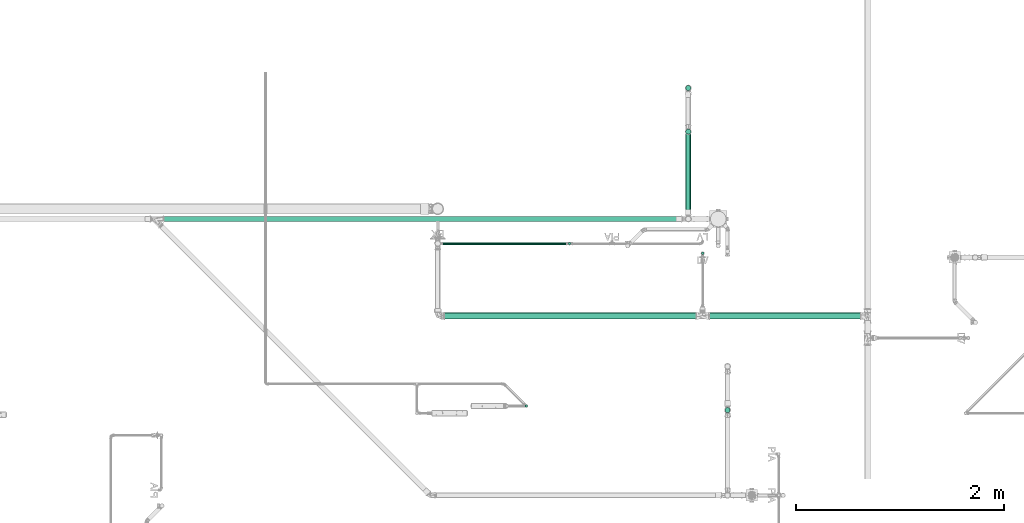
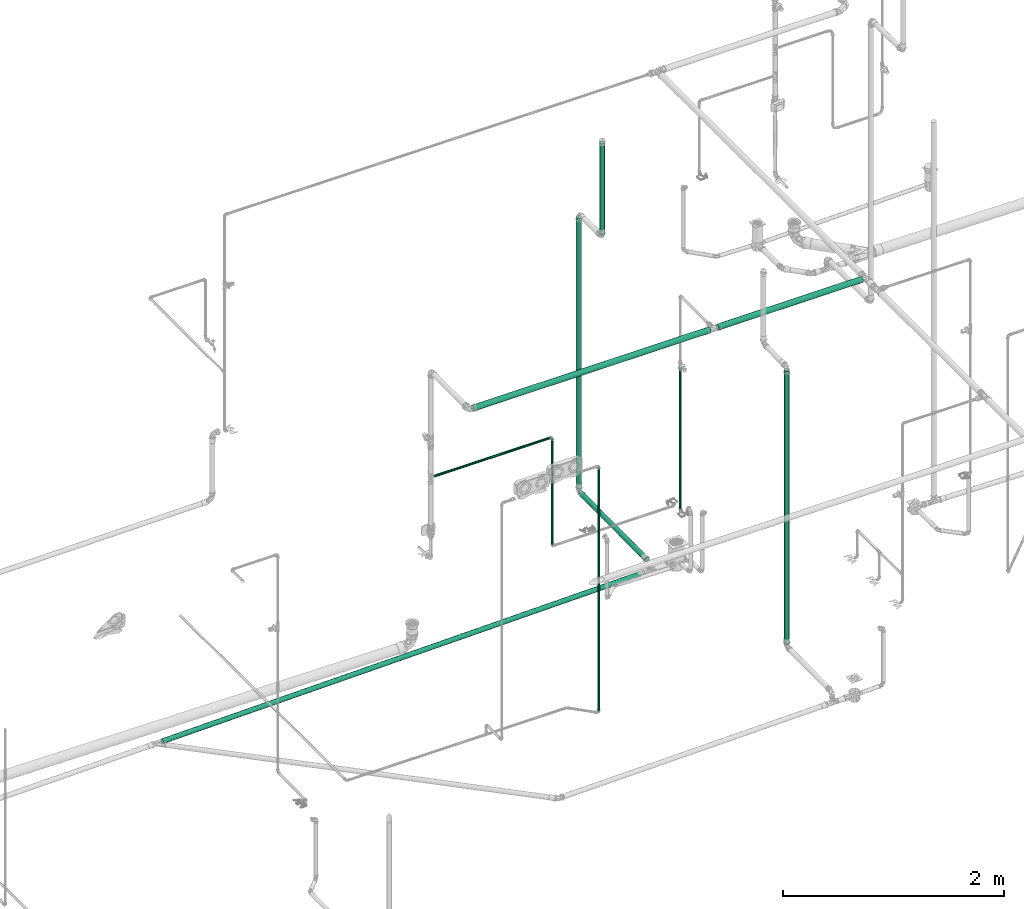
# One storey, part 20 of 589: 11 flow segments.
"""IFC2X3 building model written with IfcOpenShell, lengths in millimetres."""

from ifc_helpers import new_model, entity, si_unit, converted_unit, derived_unit, direction, frame, frame_2d, origin, origin_2d_with_axis, place, context, subcontext, project, spatial, circle, extrude, type_object, element, save


model = new_model("IFC2X3")

# Units and contexts
model_context = context("Model", 3, precision=0.01, world=origin(), true_north=direction((6.123031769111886e-17, 1.0)))
body_context = subcontext(model_context, "Body", "Model", "MODEL_VIEW")
ifc_project = project(units=[si_unit("LENGTHUNIT", "METRE", prefix="MILLI"), si_unit("AREAUNIT", "SQUARE_METRE"), si_unit("VOLUMEUNIT", "CUBIC_METRE"), converted_unit("PLANEANGLEUNIT", "DEGREE", entity("IfcRatioMeasure", 0.017453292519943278), si_unit("PLANEANGLEUNIT", "RADIAN"), dimensions=[0, 0, 0, 0, 0, 0, 0]), si_unit("MASSUNIT", "GRAM", prefix="KILO"), derived_unit("MASSDENSITYUNIT", [(si_unit("MASSUNIT", "GRAM", prefix="KILO"), 1), (si_unit("LENGTHUNIT", "METRE"), -3)]), derived_unit("IONCONCENTRATIONUNIT", [(si_unit("MASSUNIT", "GRAM", prefix="KILO"), 1), (si_unit("LENGTHUNIT", "METRE"), -3)]), derived_unit("MOMENTOFINERTIAUNIT", [(si_unit("LENGTHUNIT", "METRE"), 4)]), si_unit("TIMEUNIT", "SECOND"), si_unit("FREQUENCYUNIT", "HERTZ"), si_unit("THERMODYNAMICTEMPERATUREUNIT", "DEGREE_CELSIUS"), derived_unit("THERMALTRANSMITTANCEUNIT", [(si_unit("MASSUNIT", "GRAM", prefix="KILO"), 1), (si_unit("THERMODYNAMICTEMPERATUREUNIT", "KELVIN"), -1), (si_unit("TIMEUNIT", "SECOND"), -3)]), derived_unit("THERMALCONDUCTANCEUNIT", [(si_unit("MASSUNIT", "GRAM", prefix="KILO"), 1), (si_unit("THERMODYNAMICTEMPERATUREUNIT", "KELVIN"), -1), (si_unit("TIMEUNIT", "SECOND"), -3), (si_unit("LENGTHUNIT", "METRE"), 1)]), derived_unit("VOLUMETRICFLOWRATEUNIT", [(si_unit("LENGTHUNIT", "METRE"), 3), (si_unit("TIMEUNIT", "SECOND"), -1)]), derived_unit("MASSFLOWRATEUNIT", [(si_unit("MASSUNIT", "GRAM", prefix="KILO"), 1), (si_unit("TIMEUNIT", "SECOND"), -1)]), derived_unit("ROTATIONALFREQUENCYUNIT", [(si_unit("TIMEUNIT", "SECOND"), -1)]), si_unit("ELECTRICCURRENTUNIT", "AMPERE"), si_unit("ELECTRICVOLTAGEUNIT", "VOLT"), si_unit("POWERUNIT", "WATT"), si_unit("FORCEUNIT", "NEWTON", prefix="KILO"), si_unit("ILLUMINANCEUNIT", "LUX"), si_unit("LUMINOUSFLUXUNIT", "LUMEN"), si_unit("LUMINOUSINTENSITYUNIT", "CANDELA"), derived_unit("USERDEFINED", [(si_unit("MASSUNIT", "GRAM", prefix="KILO"), -1), (si_unit("LENGTHUNIT", "METRE"), -2), (si_unit("TIMEUNIT", "SECOND"), 3), (si_unit("LUMINOUSFLUXUNIT", "LUMEN"), 1)]), derived_unit("USERDEFINED", [(si_unit("MASSUNIT", "GRAM", prefix="KILO"), 1), (si_unit("TIMEUNIT", "SECOND"), -3), (si_unit("LENGTHUNIT", "METRE"), 3), (si_unit("ELECTRICCURRENTUNIT", "AMPERE"), -2)]), derived_unit("SOUNDPOWERUNIT", [(si_unit("MASSUNIT", "GRAM", prefix="KILO"), 1), (si_unit("TIMEUNIT", "SECOND"), -3), (si_unit("LENGTHUNIT", "METRE"), 2)]), derived_unit("SOUNDPRESSUREUNIT", [(si_unit("MASSUNIT", "GRAM", prefix="KILO"), 1), (si_unit("LENGTHUNIT", "METRE"), -1), (si_unit("TIMEUNIT", "SECOND"), -2)]), derived_unit("LINEARVELOCITYUNIT", [(si_unit("LENGTHUNIT", "METRE"), 1), (si_unit("TIMEUNIT", "SECOND"), -1)]), si_unit("PRESSUREUNIT", "PASCAL"), derived_unit("USERDEFINED", [(si_unit("MASSUNIT", "GRAM", prefix="KILO"), 1), (si_unit("LENGTHUNIT", "METRE"), -2), (si_unit("TIMEUNIT", "SECOND"), -2)]), derived_unit("LINEARFORCEUNIT", [(si_unit("MASSUNIT", "GRAM", prefix="KILO"), 1), (si_unit("TIMEUNIT", "SECOND"), -2)]), derived_unit("PLANARFORCEUNIT", [(si_unit("MASSUNIT", "GRAM", prefix="KILO"), 1), (si_unit("LENGTHUNIT", "METRE"), -1), (si_unit("TIMEUNIT", "SECOND"), -2)]), derived_unit("SPECIFICHEATCAPACITYUNIT", [(si_unit("THERMODYNAMICTEMPERATUREUNIT", "KELVIN"), -1), (si_unit("LENGTHUNIT", "METRE"), 2), (si_unit("TIMEUNIT", "SECOND"), -2)]), derived_unit("HEATINGVALUEUNIT", [(si_unit("LENGTHUNIT", "METRE"), 2), (si_unit("TIMEUNIT", "SECOND"), -2)]), derived_unit("VAPORPERMEABILITYUNIT", [(si_unit("LENGTHUNIT", "METRE"), -1), (si_unit("TIMEUNIT", "SECOND"), 1)]), derived_unit("DYNAMICVISCOSITYUNIT", [(si_unit("MASSUNIT", "GRAM", prefix="KILO"), 1), (si_unit("TIMEUNIT", "SECOND"), -1), (si_unit("LENGTHUNIT", "METRE"), -1)]), derived_unit("THERMALEXPANSIONCOEFFICIENTUNIT", [(si_unit("THERMODYNAMICTEMPERATUREUNIT", "KELVIN"), -1)]), derived_unit("MODULUSOFELASTICITYUNIT", [(si_unit("MASSUNIT", "GRAM", prefix="KILO"), 1), (si_unit("LENGTHUNIT", "METRE"), -1), (si_unit("TIMEUNIT", "SECOND"), -2)]), derived_unit("ISOTHERMALMOISTURECAPACITYUNIT", [(si_unit("LENGTHUNIT", "METRE"), 3), (si_unit("MASSUNIT", "GRAM", prefix="KILO"), -1)]), derived_unit("MOISTUREDIFFUSIVITYUNIT", [(si_unit("TIMEUNIT", "SECOND"), -1), (si_unit("LENGTHUNIT", "METRE"), 2)])], contexts=[model_context])

# Site, building, storey
site_placement = place(None, origin())
site = spatial("IfcSite", under=ifc_project, at=site_placement, Name="Default", CompositionType="ELEMENT")
building_placement = place(site_placement, origin())
building = spatial("IfcBuilding", under=site, at=building_placement, CompositionType="ELEMENT")
storey_placement = place(building_placement, frame((0.0, 0.0, 100.0)))
storey = spatial("IfcBuildingStorey", under=building, at=storey_placement, Name="TÉRREO", CompositionType="ELEMENT", Elevation=100.0)

# Flow segments
pipe_segment_type_1 = type_object("IfcPipeSegmentType", Name="Tipos de tubos:PVC Esgoto Série Normal", PredefinedType="NOTDEFINED")
flow_segment_1_placement = place(storey_placement, origin())
element("IfcFlowSegment", 1, at=flow_segment_1_placement, inside=storey, type_object=pipe_segment_type_1, Name="Tipos de tubos:PVC Esgoto Série Normal", ObjectType="Tipos de tubos:PVC Esgoto Série Normal", context=body_context, shape_type="SweptSolid", body=[
    extrude(circle(Radius=25.0, at=frame_2d((0.0, -2.326356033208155e-14), x_axis=(1.0, 0.0))), frame((2321.535130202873, 3386.5602107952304, -114.69060246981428), z_axis=(0.0, 0.9999500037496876, 0.009999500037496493), x_axis=(1.0, 0.0, 0.0)), (0.0, 0.0, 1.0), 1198.0063614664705),
])
flow_segment_2_placement = place(storey_placement, origin())
element("IfcFlowSegment", 2, at=flow_segment_2_placement, inside=storey, type_object=pipe_segment_type_1, Name="Tipos de tubos:PVC Esgoto Série Normal", ObjectType="Tipos de tubos:PVC Esgoto Série Normal", context=body_context, shape_type="SweptSolid", body=[
    extrude(circle(Radius=25.0, at=origin_2d_with_axis()), frame((2321.535130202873, 4615.446429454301, -71.46044031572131), z_axis=(0.0, 0.0, 1.0), x_axis=(-1.0, 0.0, 0.0)), (0.0, 0.0, 1.0), 2993.1191403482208),
])
flow_segment_3_placement = place(storey_placement, origin())
element("IfcFlowSegment", 3, at=flow_segment_3_placement, inside=storey, type_object=pipe_segment_type_1, Name="Tipos de tubos:PVC Esgoto Série Normal", ObjectType="Tipos de tubos:PVC Esgoto Série Normal", context=body_context, shape_type="SweptSolid", body=[
    extrude(circle(Radius=25.0, at=frame_2d((0.0, 5.414335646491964e-13), x_axis=(1.0, 0.0))), frame((2321.535130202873, 4195.4464120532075, 2987.7413001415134), z_axis=(0.0, 0.0, 1.0), x_axis=(-1.0, 0.0, 0.0)), (0.0, 0.0, 1.0), 1010.3586998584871),
])
flow_segment_4_placement = place(storey_placement, origin())
element("IfcFlowSegment", 4, at=flow_segment_4_placement, inside=storey, type_object=pipe_segment_type_1, Name="Tipos de tubos:PVC Esgoto Série Normal", ObjectType="Tipos de tubos:PVC Esgoto Série Normal", context=body_context, shape_type="SweptSolid", body=[
    extrude(circle(Radius=25.0, at=frame_2d((0.0, -2.707167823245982e-13), x_axis=(1.0, 0.0))), frame((2699.4844981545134, 1517.729007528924, -35.858700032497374), z_axis=(0.0, 0.0, 1.0), x_axis=(-1.0, 0.0, 0.0)), (0.0, 0.0, 1.0), 3018.117400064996),
])
flow_segment_5_placement = place(storey_placement, origin())
element("IfcFlowSegment", 5, at=flow_segment_5_placement, inside=storey, type_object=pipe_segment_type_1, Name="Tipos de tubos:PVC Esgoto Série Normal", ObjectType="Tipos de tubos:PVC Esgoto Série Normal", context=body_context, shape_type="SweptSolid", body=[
    extrude(circle(Radius=25.0, at=frame_2d((0.0, -3.383283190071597e-14), x_axis=(1.0, 0.0))), frame((-2753.6477018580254, 3355.620457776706, -321.3560862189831), z_axis=(0.999800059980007, 0.0, 0.019996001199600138), x_axis=(0.0, 1.0, 0.0)), (0.0, 0.0, 1.0), 4990.2977671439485),
])
pipe_segment_type_2 = type_object("IfcPipeSegmentType", Name="Tipos de tubos:PVC Marrom Soldável", PredefinedType="NOTDEFINED")
flow_segment_6_placement = place(storey_placement, origin())
element("IfcFlowSegment", 6, at=flow_segment_6_placement, inside=storey, type_object=pipe_segment_type_2, Name="Tipos de tubos:PVC Marrom Soldável", ObjectType="Tipos de tubos:PVC Marrom Soldável", context=body_context, shape_type="SweptSolid", body=[
    extrude(circle(Radius=12.5, at=frame_2d((0.0, -5.414335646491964e-13), x_axis=(1.0, 0.0))), frame((1179.1061156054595, 3119.214762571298, 615.4), z_axis=(0.0, 0.0, 1.0), x_axis=(-1.0, 0.0, 0.0)), (0.0, 0.0, 1.0), 1169.2000000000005),
])
flow_segment_7_placement = place(storey_placement, origin())
element("IfcFlowSegment", 7, at=flow_segment_7_placement, inside=storey, type_object=pipe_segment_type_2, Name="Tipos de tubos:PVC Marrom Soldável", ObjectType="Tipos de tubos:PVC Marrom Soldável", context=body_context, shape_type="SweptSolid", body=[
    extrude(circle(Radius=12.5, at=origin_2d_with_axis()), frame((-54.085353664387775, 3119.2147625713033, 1800.0), z_axis=(1.0, 0.0, 0.0), x_axis=(0.0, -1.0, 0.0)), (0.0, 0.0, 1.0), 1217.7914692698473),
])
flow_segment_8_placement = place(storey_placement, origin())
element("IfcFlowSegment", 8, at=flow_segment_8_placement, inside=storey, type_object=pipe_segment_type_2, Name="Tipos de tubos:PVC Marrom Soldável", ObjectType="Tipos de tubos:PVC Marrom Soldável", context=body_context, shape_type="SweptSolid", body=[
    extrude(circle(Radius=12.5, at=origin_2d_with_axis()), frame((2459.484498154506, 3025.8703177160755, 616.3000000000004), z_axis=(0.0, 0.0, 1.0), x_axis=(-1.0, 0.0, 0.0)), (0.0, 0.0, 1.0), 1563.7000000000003),
])
flow_segment_9_placement = place(storey_placement, origin())
element("IfcFlowSegment", 9, at=flow_segment_9_placement, inside=storey, type_object=pipe_segment_type_2, Name="Tipos de tubos:PVC Marrom Soldável", ObjectType="Tipos de tubos:PVC Marrom Soldável", context=body_context, shape_type="SweptSolid", body=[
    extrude(circle(Radius=30.0, at=frame_2d((-7.038636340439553e-12, 0.0), x_axis=(1.0, 0.0))), frame((-53.18535366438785, 2424.357557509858, 2970.0), z_axis=(1.0, 0.0, 0.0), x_axis=(0.0, 1.0, 0.0)), (0.0, 0.0, 1.0), 2471.769851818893),
])
flow_segment_10_placement = place(storey_placement, origin())
element("IfcFlowSegment", 10, at=flow_segment_10_placement, inside=storey, type_object=pipe_segment_type_2, Name="Tipos de tubos:PVC Marrom Soldável", ObjectType="Tipos de tubos:PVC Marrom Soldável", context=body_context, shape_type="SweptSolid", body=[
    extrude(circle(Radius=30.0, at=origin_2d_with_axis()), frame((2500.3844981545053, 2424.3575575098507, 2970.0), z_axis=(1.0, 0.0, 0.0), x_axis=(0.0, 1.0, 0.0)), (0.0, 0.0, 1.0), 1505.8313700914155),
])
flow_segment_11_placement = place(storey_placement, origin())
element("IfcFlowSegment", 11, at=flow_segment_11_placement, inside=storey, type_object=pipe_segment_type_2, Name="Tipos de tubos:PVC Marrom Soldável", ObjectType="Tipos de tubos:PVC Marrom Soldável", context=body_context, shape_type="SweptSolid", body=[
    extrude(circle(Radius=12.5, at=frame_2d((2.3147803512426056e-18, -2.0107449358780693e-19), x_axis=(1.0, 0.0))), frame((762.775131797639, 1556.9861707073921, -128.07085864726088)), (0.0, 0.0, 1.0), 2687.9006024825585),
])

save(model, "model.ifc")
